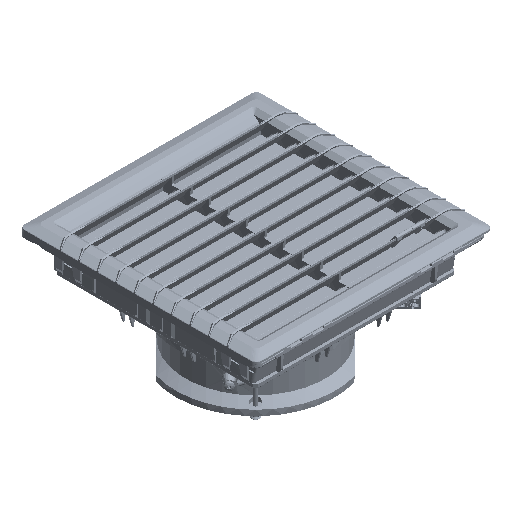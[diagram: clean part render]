
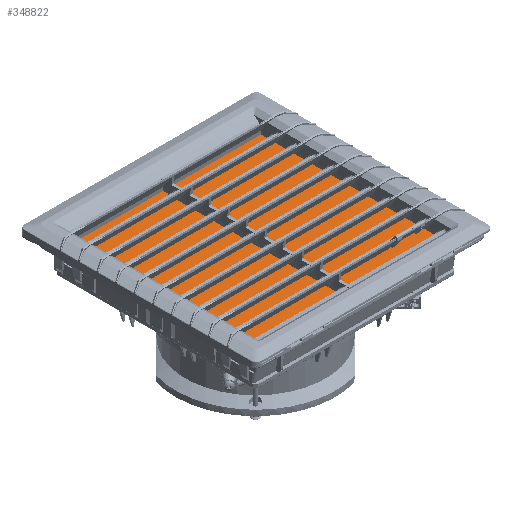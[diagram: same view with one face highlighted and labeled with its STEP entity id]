
A CAD part, isometric view. The second image highlights one B-rep face of the part: STEP entity #348822.
In plain terms, the highlighted planar face has unit normal (0, 0, 1).
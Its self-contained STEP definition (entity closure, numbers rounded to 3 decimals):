
#348674=DIRECTION('',(0.,-1.,0.));
#348675=VECTOR('',#348674,213.);
#348676=CARTESIAN_POINT('',(-106.5,106.5,16.));
#348677=LINE('',#348676,#348675);
#348688=DIRECTION('',(-1.,0.,0.));
#348689=VECTOR('',#348688,213.);
#348690=CARTESIAN_POINT('',(106.5,106.5,16.));
#348691=LINE('',#348690,#348689);
#348702=DIRECTION('',(0.,1.,0.));
#348703=VECTOR('',#348702,213.);
#348704=CARTESIAN_POINT('',(106.5,-106.5,16.));
#348705=LINE('',#348704,#348703);
#348716=DIRECTION('',(1.,0.,0.));
#348717=VECTOR('',#348716,213.);
#348718=CARTESIAN_POINT('',(-106.5,-106.5,16.));
#348719=LINE('',#348718,#348717);
#348731=CARTESIAN_POINT('',(-106.5,106.5,16.));
#348732=VERTEX_POINT('',#348731);
#348733=CARTESIAN_POINT('',(-106.5,-106.5,16.));
#348734=VERTEX_POINT('',#348733);
#348735=CARTESIAN_POINT('',(106.5,106.5,16.));
#348736=VERTEX_POINT('',#348735);
#348737=CARTESIAN_POINT('',(106.5,-106.5,16.));
#348738=VERTEX_POINT('',#348737);
#348811=CARTESIAN_POINT('',(0.,0.,16.));
#348812=DIRECTION('',(0.,0.,1.));
#348813=DIRECTION('',(1.,0.,0.));
#348814=AXIS2_PLACEMENT_3D('',#348811,#348812,#348813);
#348815=PLANE('',#348814);
#348816=ORIENTED_EDGE('',*,*,#348763,.F.);
#348817=ORIENTED_EDGE('',*,*,#348778,.F.);
#348818=ORIENTED_EDGE('',*,*,#348792,.F.);
#348819=ORIENTED_EDGE('',*,*,#348805,.F.);
#348820=EDGE_LOOP('',(#348816,#348817,#348818,#348819));
#348821=FACE_OUTER_BOUND('',#348820,.F.);
#348763=EDGE_CURVE('',#348732,#348734,#348677,.T.);
#348778=EDGE_CURVE('',#348736,#348732,#348691,.T.);
#348792=EDGE_CURVE('',#348738,#348736,#348705,.T.);
#348805=EDGE_CURVE('',#348734,#348738,#348719,.T.);
#348822=ADVANCED_FACE('',(#348821),#348815,.T.);
